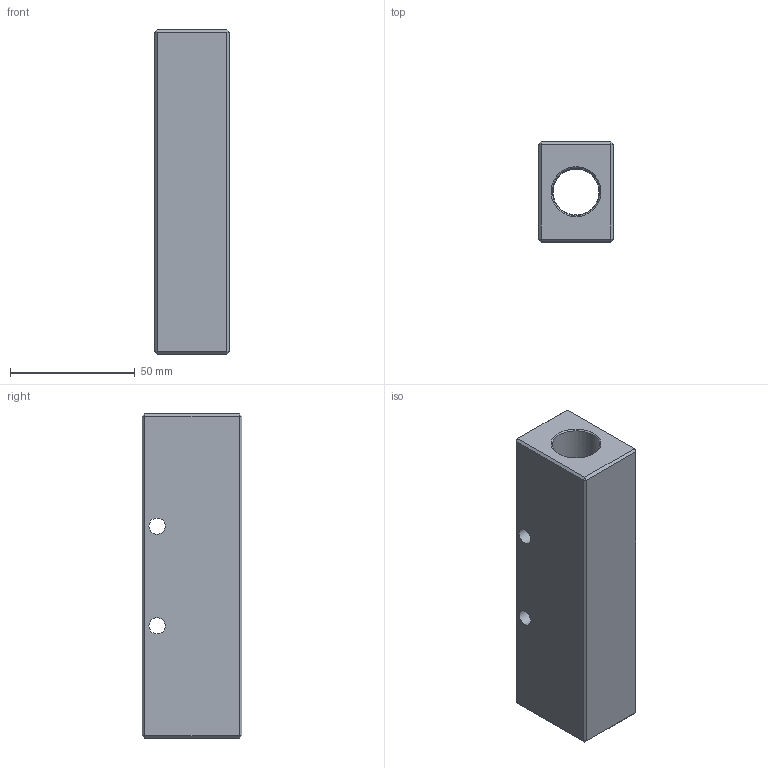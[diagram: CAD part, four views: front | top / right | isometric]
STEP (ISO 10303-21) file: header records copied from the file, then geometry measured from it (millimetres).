
FILE_DESCRIPTION(/* description */ (''),/* implementation_level */ '2;1');
FILE_NAME(/* name */ 'BXH89 2B4 06B3.stp',/* time_stamp */ '2024-11-17T14:07:45+01:00',/* author */ ('freju'),/* organization */ (''),/* preprocessor_version */ 'ST-DEVELOPER v20',/* originating_system */ 'Autodesk Inventor 2025',/* authorisation */ '');
FILE_SCHEMA (('AUTOMOTIVE_DESIGN { 1 0 10303 214 3 1 1 }'));
Length unit declared in the file: millimetre
Products named in the file (1): BXH89 2B4 06B3
Bounding box: 30 x 40 x 130 mm (x, y, z)
Volume: 111581.6 mm3; surface area: 28870.9 mm2
Topology: 1 solids, 1 shells, 41 faces, 98 edges, 57 vertices
Faces by surface type: plane 28, cylinder 8, cone 5
Full cylindrical faces by diameter (mm): 6.5 x2, 15.25 x3, 18.5 x1, 19 x2
Entity records: 1340 total; most frequent: CARTESIAN_POINT 323, DIRECTION 203, ORIENTED_EDGE 196, EDGE_CURVE 98, AXIS2_PLACEMENT_3D 69, LINE 65, VECTOR 65, VERTEX_POINT 57
